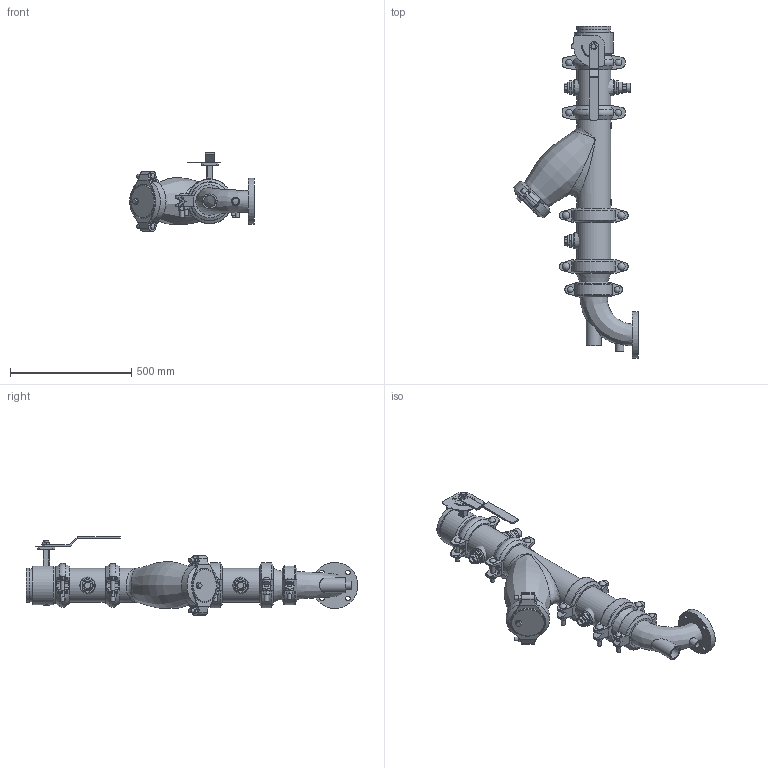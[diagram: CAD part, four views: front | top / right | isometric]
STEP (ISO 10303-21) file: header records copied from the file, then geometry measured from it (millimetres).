
FILE_DESCRIPTION(/* description */ ('VIC SVI PUMP DROP HORZ S/382 (OGSxFLG) (S/924-0.75)','CAx-IF Rec.Pracs.---Representation and Presentation of Product Manufacturing Information (PMI)---4.0---2014-10-13'),/* implementation_level */ '2;1');
FILE_NAME(/* name */ 'C:\Users\Vjadhav\AppData\Roaming\Autodesk\ApplicationPlugins\Victaulic.Temp\A562\Victaulic_IPS_Horizontal SVI_CL 150_Series 382 (OGSxFLG)_924 (0.75)_05.0x03.0 (125x80).stp',/* time_stamp */ '2022-02-28T19:58:16+05:00',/* author */ ('kkamble'),/* organization */ ('Victaulic'),/* preprocessor_version */ 'ST-DEVELOPER v17.2',/* originating_system */ 'Autodesk Inventor 2019',/* authorisation */ '');
FILE_SCHEMA (('AP242_MANAGED_MODEL_BASED_3D_ENGINEERING_MIM_LF { 1 0 10303 442 1 1 4 }'));
Length unit declared in the file: inch
Products named in the file (15): 382_924 (0.75)-05.0x03.0; PIPE-05.0; 107N-05.0; 732-05.0; 732-05.0_1; 07-05.0; 732-05.0_2; PIPE-05.2; 761-05.0; 924-04.0x0.75; 177N-04.0; 923-04.0x0.75; R100F-04.0x03.0; 050-05.0x04.0; 177N-05.0
Assembly tree (17 placements, depth 3):
  382_924 (0.75)-05.0x03.0
    PIPE-05.0
    107N-05.0  x2
    732-05.0
      732-05.0_1
      07-05.0
      732-05.0_2
    177N-05.0  x2
    PIPE-05.2
    761-05.0
    924-04.0x0.75
    923-04.0x0.75  x2
    177N-04.0
    R100F-04.0x03.0
    050-05.0x04.0
Bounding box: 514.35 x 1371.6 x 323.41 mm (x, y, z)
Volume: 10391414.5 mm3; surface area: 2321129.2 mm2
Topology: 16 solids, 19 shells, 1011 faces, 2617 edges, 1742 vertices
Faces by surface type: plane 540, cylinder 344, bspline 46, torus 36, cone 33, sphere 12
Full cylindrical faces by diameter (mm): 4.826 x10, 8.636 x4, 15.875 x14, 17.78 x4, 19.05 x6, 22.86 x1, 23.495 x2, 25.4 x3, 26.67 x4, 27.381 x4, 30.48 x4, 34.29 x1, 38.608 x1, 45.974 x6, 48.26 x1, 55.118 x1, 55.626 x3, 60.96 x1, 77.927 x1, 101.6 x1, 102.26 x2, 110.084 x2, 114.3 x5, 117.602 x1, 127.356 x1, 127.584 x1, 128.194 x4, 128.6 x4, 134.95 x1, 137.033 x11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
Entity records: 28975 total; most frequent: CARTESIAN_POINT 8991, DIRECTION 4052, ORIENTED_EDGE 3810, EDGE_CURVE 1905, AXIS2_PLACEMENT_3D 1534, VERTEX_POINT 1272, LINE 984, VECTOR 984
